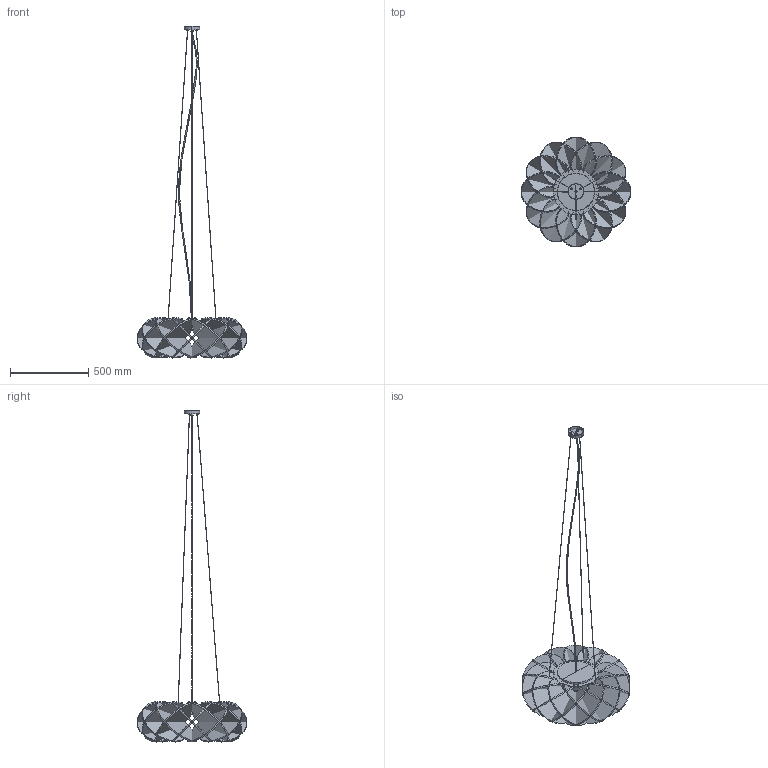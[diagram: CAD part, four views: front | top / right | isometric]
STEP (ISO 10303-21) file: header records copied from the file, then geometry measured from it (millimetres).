
FILE_DESCRIPTION(/* description */ (''),/* implementation_level */ '2;1');
FILE_NAME(/* name */ 'Halo Light 700_Lumenear_STEP',/* time_stamp */ '2024-11-07T11:32:18+01:00',/* author */ (''),/* organization */ (''),/* preprocessor_version */ 'ST-DEVELOPER v16.5',/* originating_system */ 'Rhino 7.37',/* authorisation */ '');
FILE_SCHEMA (('CONFIG_CONTROL_DESIGN'));
Length unit declared in the file: millimetre
Products named in the file (1): Document
Bounding box: 699.97 x 699.97 x 2115.27 mm (x, y, z)
Volume: 22030030.9 mm3; surface area: 4285767.7 mm2
Topology: 36 solids, 36 shells, 239 faces, 439 edges, 280 vertices
Faces by surface type: bspline 101, plane 96, cylinder 42
Entity records: 17880 total; most frequent: CARTESIAN_POINT 14640, ORIENTED_EDGE 870, EDGE_CURVE 435, VERTEX_POINT 280, B_SPLINE_CURVE_WITH_KNOTS 262, EDGE_LOOP 253, ADVANCED_FACE 239, FACE_OUTER_BOUND 239
